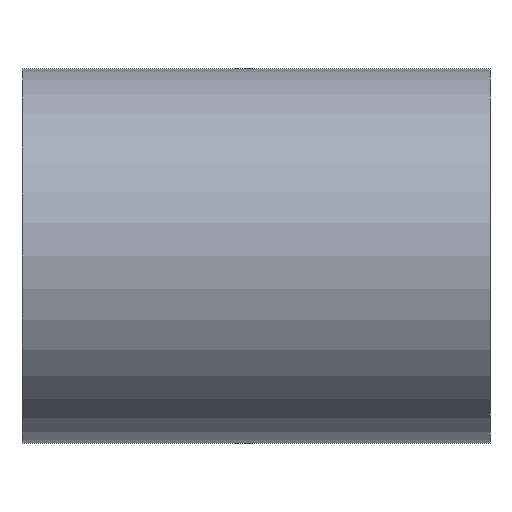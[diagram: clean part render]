
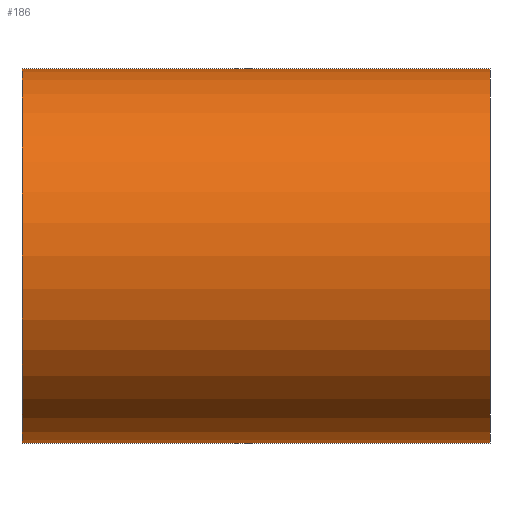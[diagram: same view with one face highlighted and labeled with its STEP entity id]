
A CAD part, front view. The second image highlights one B-rep face of the part: STEP entity #186.
In plain terms, the highlighted cylindrical face has radius 600 mm (diameter 1200 mm), a partial arc.
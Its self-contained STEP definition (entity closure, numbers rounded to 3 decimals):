
#186=ADVANCED_FACE('',(#374),#375,.T.);
#374=FACE_OUTER_BOUND('',#589,.T.);
#375=CYLINDRICAL_SURFACE('',#590,600.0);
#589=EDGE_LOOP('',(#1079,#1080,#1081,#1082));
#590=AXIS2_PLACEMENT_3D('',#1083,#1084,#1085);
#1079=ORIENTED_EDGE('',*,*,#1167,.T.);
#1080=ORIENTED_EDGE('',*,*,#1373,.F.);
#1081=ORIENTED_EDGE('',*,*,#1169,.T.);
#1082=ORIENTED_EDGE('',*,*,#1374,.F.);
#1083=CARTESIAN_POINT('',(0.0,0.0,0.0));
#1084=DIRECTION('',(1.0,0.0,0.0));
#1085=DIRECTION('',(0.0,0.0,-1.0));
#1167=EDGE_CURVE('',#1378,#1379,#1380,.T.);
#1169=EDGE_CURVE('',#1383,#1381,#1384,.T.);
#1373=EDGE_CURVE('',#1383,#1379,#1687,.T.);
#1374=EDGE_CURVE('',#1378,#1381,#1688,.T.);
#1378=VERTEX_POINT('',#1692);
#1379=VERTEX_POINT('',#1693);
#1380=LINE('',#1694,#1695);
#1381=VERTEX_POINT('',#1696);
#1383=VERTEX_POINT('',#1698);
#1384=LINE('',#1699,#1700);
#1687=CIRCLE('',#2063,600.0);
#1688=CIRCLE('',#2064,600.0);
#1692=CARTESIAN_POINT('',(-750.0,0.0,-600.0));
#1693=CARTESIAN_POINT('',(750.0,0.0,-600.0));
#1694=CARTESIAN_POINT('',(0.0,0.,-600.0));
#1695=VECTOR('',#2067,1.0);
#1696=CARTESIAN_POINT('',(-750.0,0.,600.0));
#1698=CARTESIAN_POINT('',(750.0,0.,600.0));
#1699=CARTESIAN_POINT('',(0.0,0.,600.0));
#1700=VECTOR('',#2071,1.0);
#2063=AXIS2_PLACEMENT_3D('',#2402,#2403,#2404);
#2064=AXIS2_PLACEMENT_3D('',#2405,#2406,#2407);
#2067=DIRECTION('',(1.0,0.0,0.0));
#2071=DIRECTION('',(-1.0,-0.0,-0.0));
#2402=CARTESIAN_POINT('',(750.0,0.0,0.0));
#2403=DIRECTION('',(1.0,0.0,0.0));
#2404=DIRECTION('',(0.0,0.0,-1.0));
#2405=CARTESIAN_POINT('',(-750.0,0.0,0.0));
#2406=DIRECTION('',(-1.0,0.0,0.0));
#2407=DIRECTION('',(0.0,0.0,-1.0));
